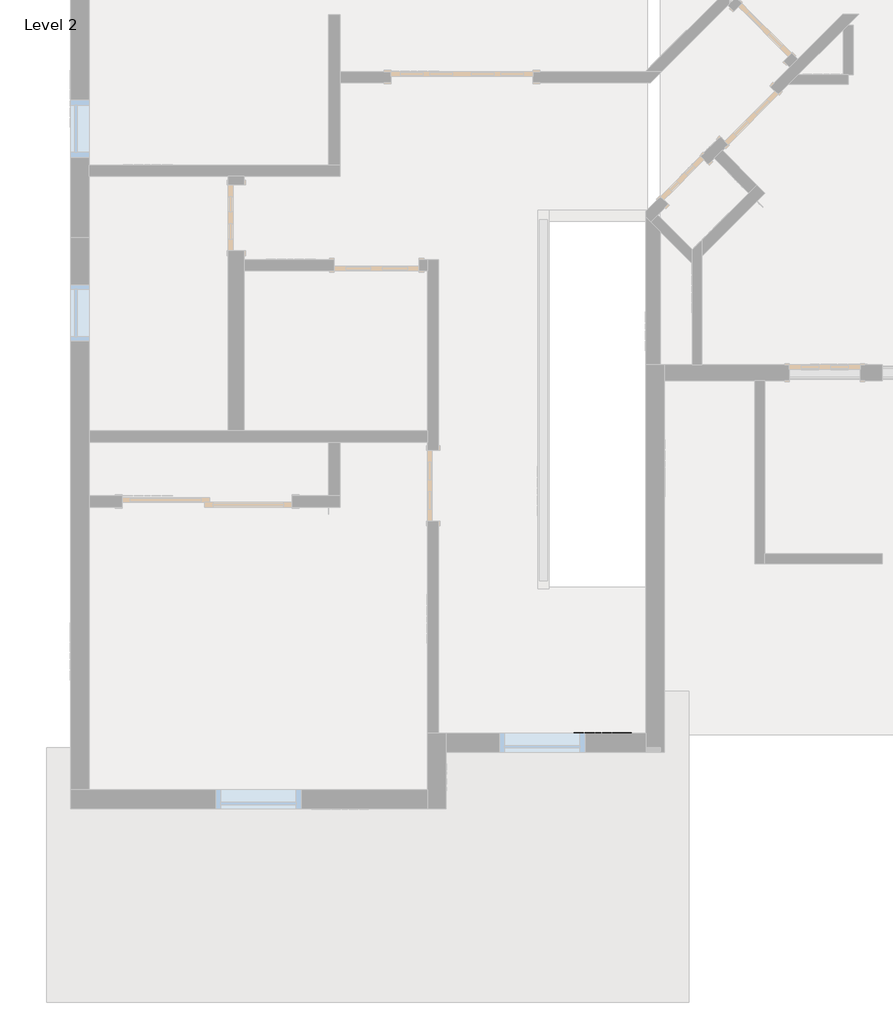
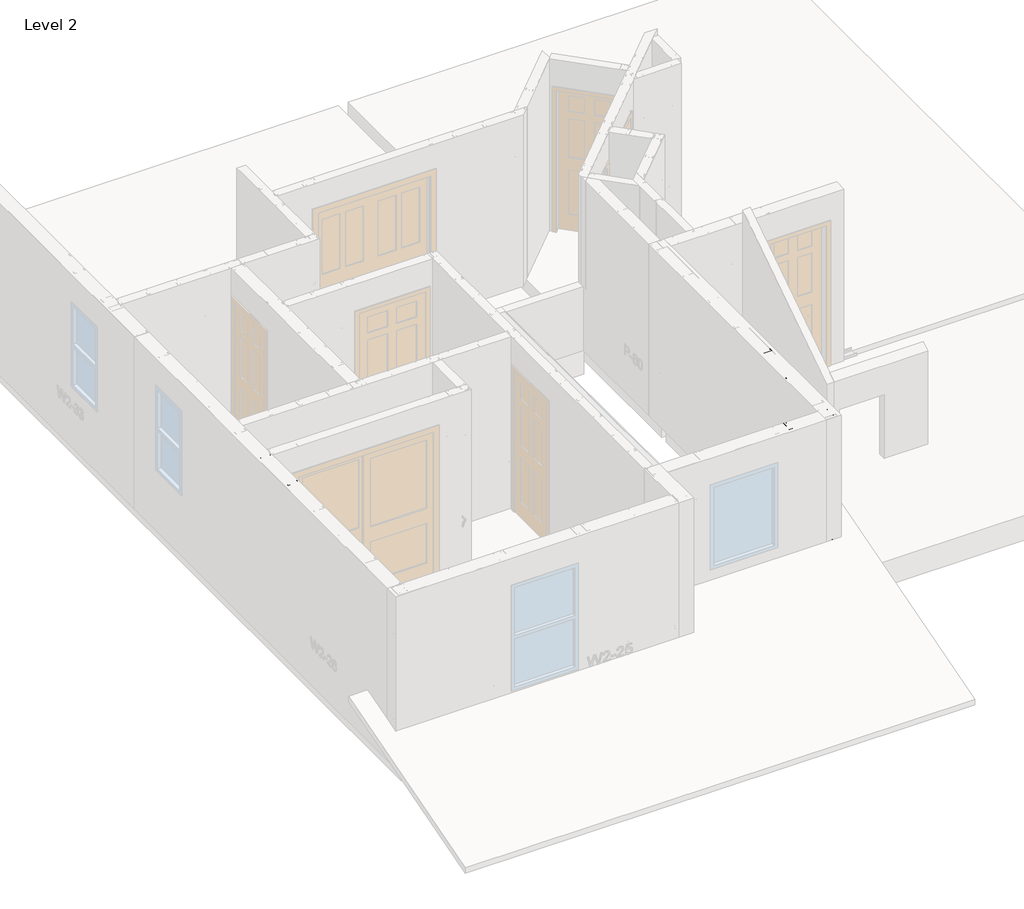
# One storey, part 7 of 46: 6 columns, 1 beam, 1 fastener.
"""IFC4 building model written with IfcOpenShell, lengths in millimetres."""

from ifc_helpers import new_model, si_unit, point, frame, origin, place, context, project, spatial, circle_curve, ellipse_curve, trimmed, transform, mapped, element, save
from ifc_brep_helpers import plane_surface, extruded_surface, advanced_brep
from components import beam_550nf150_43_4f54639b, panellabel_1b34edc0

model = new_model("IFC4")

# Units and contexts
model_context = context("Model", 3, world=origin())
ifc_project = project(units=[si_unit("LENGTHUNIT", "METRE", prefix="MILLI")], contexts=[model_context])

# Site, building, storey
site = spatial("IfcSite", under=ifc_project)
building = spatial("IfcBuilding", under=site)
storey = spatial("IfcBuildingStorey", under=building, Name="Level 2", Elevation=3060.7)

# Beam
placement = place(None, origin())
beam_550nf150_43_shape = beam_550nf150_43_4f54639b(model_context)
element("IfcBeam", 1, ObjectType="BIMSF-SSMA-S : 550NF150-43", at=placement, inside=storey, context=model_context, shape_type="MappedRepresentation", body=[
    mapped(beam_550nf150_43_shape, transform((-15194.0913349, 4957.6168742, 3076.575), x_axis=(0.0, 1.0000000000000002, 0.0), y_axis=(0.0, 0.0, -1.0000000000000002), z_axis=(-1.0000000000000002, 0.0, 0.0))),
])

# Columns
element("IfcColumn", 2, ObjectType="BIMSF-SSMA-S-Column : 550NF150-43", at=placement, inside=storey, context=model_context, shape_type="AdvancedBrep", body=[
    advanced_brep(
    [(-15124.2413349, 4372.102221, 3061.5929687), (-15263.9413349, 4372.102221, 3061.5929687), (-15263.9413349, 4410.202221, 3061.5929687), (-15258.0164507, 4410.202221, 3061.5929687), (-15258.0164507, 4409.0525367, 3061.5929687), (-15262.7916507, 4409.0525367, 3061.5929687), (-15262.7916507, 4373.2519052, 3061.5929687), (-15125.3910191, 4373.2519052, 3061.5929687), (-15125.3910191, 4409.0525367, 3061.5929687), (-15130.1662191, 4409.0525367, 3061.5929687), (-15130.1662191, 4410.202221, 3061.5929687), (-15124.2413349, 4410.202221, 3061.5929687), (-15124.2413349, 4372.102221, 5523.6070313), (-15263.9413349, 4372.102221, 5523.6070313), (-15206.7913349, 4372.102221, 3671.1929687), (-15181.3913349, 4372.102221, 3671.1929687), (-15206.7913349, 4372.102221, 4890.3929687), (-15181.3913349, 4372.102221, 4890.3929687), (-15263.9413349, 4410.202221, 5523.6070313), (-15258.0164507, 4410.202221, 5523.6070313), (-15258.0164507, 4409.0525367, 5523.6070313), (-15262.7916507, 4409.0525367, 5523.6070313), (-15262.7916507, 4373.2519052, 5523.6070313), (-15125.3910191, 4373.2519052, 5523.6070313), (-15181.3913349, 4373.2519052, 3671.1929688), (-15206.7913349, 4373.2519052, 3671.1929688), (-15181.3913349, 4373.2519052, 4890.3929687), (-15206.7913349, 4373.2519052, 4890.3929687), (-15125.3910191, 4409.0525367, 5523.6070313), (-15130.1662191, 4409.0525367, 5523.6070313), (-15130.1662191, 4410.202221, 5523.6070313), (-15124.2413349, 4410.202221, 5523.6070313)],
    [
        (0, 1),
        (1, 2),
        (2, 3),
        (3, 4),
        (4, 5),
        (5, 6),
        (6, 7),
        (7, 8),
        (8, 9),
        (9, 10),
        (10, 11),
        (11, 0),
        (0, 12),
        (12, 13),
        (13, 1),
        (14, 15, circle_curve(frame((-15194.0913349, 4372.102221, 3671.1929688), z_axis=(0.0, 1.0, 0.0), x_axis=(-1.0, 0.0, 0.0)), 12.7)),
        (15, 14, circle_curve(frame((-15194.0913349, 4372.102221, 3671.1929688), z_axis=(0.0, 1.0, 0.0), x_axis=(-1.0, 0.0, 0.0)), 12.7)),
        (16, 17, circle_curve(frame((-15194.0913349, 4372.102221, 4890.3929687), z_axis=(0.0, 1.0, 0.0), x_axis=(-1.0, 0.0, 0.0)), 12.7)),
        (17, 16, circle_curve(frame((-15194.0913349, 4372.102221, 4890.3929687), z_axis=(0.0, 1.0, 0.0), x_axis=(-1.0, 0.0, 0.0)), 12.7)),
        (13, 18),
        (18, 2),
        (18, 19),
        (19, 3),
        (19, 20),
        (20, 4),
        (20, 21),
        (21, 5),
        (21, 22),
        (22, 6),
        (22, 23),
        (23, 7),
        (24, 25, circle_curve(frame((-15194.0913349, 4373.2519052, 3671.1929688), z_axis=(0.0, -1.0, 0.0), x_axis=(-1.0, 0.0, 0.0)), 12.7)),
        (25, 24, circle_curve(frame((-15194.0913349, 4373.2519052, 3671.1929688), z_axis=(0.0, -1.0, 0.0), x_axis=(-1.0, 0.0, 0.0)), 12.7)),
        (26, 27, circle_curve(frame((-15194.0913349, 4373.2519052, 4890.3929687), z_axis=(0.0, -1.0, 0.0), x_axis=(-1.0, 0.0, 0.0)), 12.7)),
        (27, 26, circle_curve(frame((-15194.0913349, 4373.2519052, 4890.3929687), z_axis=(0.0, -1.0, 0.0), x_axis=(-1.0, 0.0, 0.0)), 12.7)),
        (23, 28),
        (28, 8),
        (28, 29),
        (29, 9),
        (29, 30),
        (30, 10),
        (30, 31),
        (31, 11),
        (31, 12),
        (24, 15),
        (14, 25),
        (26, 17),
        (16, 27),
    ],
    [
        plane_surface(frame((-15124.2413349, 4372.102221, 3061.5929687), z_axis=(0.0, 0.0, -1.0), x_axis=(0.0, -1.0, 0.0))),
        plane_surface(frame((-15263.9413349, 4372.102221, 5523.6070313), z_axis=(0.0, -1.0, 0.0), x_axis=(0.0, 0.0, -1.0))),
        plane_surface(frame((-15263.9413349, 4410.202221, 5523.6070313), z_axis=(-1.0, 0.0, 0.0), x_axis=(0.0, 0.0, -1.0))),
        plane_surface(frame((-15258.0164507, 4410.202221, 5523.6070313), z_axis=(0.0, 1.0, 0.0), x_axis=(0.0, 0.0, -1.0))),
        plane_surface(frame((-15258.0164507, 4409.0525367, 5523.6070313), z_axis=(1.0, 0.0, 0.0), x_axis=(0.0, 0.0, -1.0))),
        plane_surface(frame((-15262.7916507, 4409.0525367, 5523.6070313), z_axis=(0.0, -1.0, 0.0), x_axis=(0.0, 0.0, -1.0))),
        plane_surface(frame((-15262.7916507, 4373.2519052, 5523.6070313), z_axis=(1.0, 0.0, 0.0), x_axis=(0.0, 0.0, -1.0))),
        plane_surface(frame((-15125.3910191, 4373.2519052, 5523.6070313), z_axis=(0.0, 1.0, 0.0), x_axis=(0.0, 0.0, -1.0))),
        plane_surface(frame((-15125.3910191, 4409.0525367, 5523.6070313), z_axis=(-1.0, 0.0, 0.0), x_axis=(0.0, 0.0, -1.0))),
        plane_surface(frame((-15130.1662191, 4409.0525367, 5523.6070313), z_axis=(0.0, -1.0, 0.0), x_axis=(0.0, 0.0, -1.0))),
        plane_surface(frame((-15130.1662191, 4410.202221, 5523.6070313), z_axis=(-1.0, 0.0, 0.0), x_axis=(0.0, 0.0, -1.0))),
        plane_surface(frame((-15124.2413349, 4410.202221, 5523.6070313), z_axis=(0.0, 1.0, 0.0), x_axis=(0.0, 0.0, -1.0))),
        plane_surface(frame((-15124.2413349, 4372.102221, 5523.6070313), z_axis=(1.0, 0.0, 0.0), x_axis=(0.0, 0.0, -1.0))),
        plane_surface(frame((-15124.2413349, 4372.102221, 5523.6070313), z_axis=(0.0, 0.0, 1.0), x_axis=(0.0, 1.0, 0.0))),
        extruded_surface(trimmed(ellipse_curve(frame((-15194.0913349, 6853.1662835, 3671.1929688), z_axis=(0.0, -1.0, 0.0), x_axis=(-1.0, 0.0, 0.0)), 12.7, 12.7), [point((-15181.3913349, 6853.1662835, 3671.1929688))], [point((-15206.7913349, 6853.1662835, 3671.1929688))], True, "CARTESIAN"), (0.0, 4924.028125, 0.0), 4924.028125),
        extruded_surface(trimmed(ellipse_curve(frame((-15194.0913349, 6853.1662835, 3671.1929688), z_axis=(0.0, -1.0, 0.0), x_axis=(-1.0, 0.0, 0.0)), 12.7, 12.7), [point((-15206.7913349, 6853.1662835, 3671.1929688))], [point((-15181.3913349, 6853.1662835, 3671.1929688))], True, "CARTESIAN"), (0.0, 4924.028125, 0.0), 4924.028125),
        extruded_surface(trimmed(ellipse_curve(frame((-15194.0913349, 6853.1662835, 4890.3929687), z_axis=(0.0, -1.0, 0.0), x_axis=(-1.0, 0.0, 0.0)), 12.7, 12.7), [point((-15181.3913349, 6853.1662835, 4890.3929687))], [point((-15206.7913349, 6853.1662835, 4890.3929687))], True, "CARTESIAN"), (0.0, 4924.028125, 0.0), 4924.028125),
        extruded_surface(trimmed(ellipse_curve(frame((-15194.0913349, 6853.1662835, 4890.3929687), z_axis=(0.0, -1.0, 0.0), x_axis=(-1.0, 0.0, 0.0)), 12.7, 12.7), [point((-15206.7913349, 6853.1662835, 4890.3929687))], [point((-15181.3913349, 6853.1662835, 4890.3929687))], True, "CARTESIAN"), (0.0, 4924.028125, 0.0), 4924.028125),
    ],
    [
        (0, [[1, 2, 3, 4, 5, 6, 7, 8, 9, 10, 11, 12]]),
        (1, [[-1, 13, 14, 15], [16, 17], [18, 19]]),
        (2, [[-2, -15, 20, 21]]),
        (3, [[-3, -21, 22, 23]]),
        (4, [[-4, -23, 24, 25]]),
        (5, [[-5, -25, 26, 27]]),
        (6, [[-6, -27, 28, 29]]),
        (7, [[-7, -29, 30, 31], [32, 33], [34, 35]]),
        (8, [[-8, -31, 36, 37]]),
        (9, [[-9, -37, 38, 39]]),
        (10, [[-10, -39, 40, 41]]),
        (11, [[-11, -41, 42, 43]]),
        (12, [[-12, -43, 44, -13]]),
        (13, [[-14, -44, -42, -40, -38, -36, -30, -28, -26, -24, -22, -20]]),
        (14, [[45, -16, 46, -32]]),
        (15, [[-45, -33, -46, -17]]),
        (16, [[47, -18, 48, -34]]),
        (17, [[-47, -35, -48, -19]]),
    ],
),
])
element("IfcColumn", 3, ObjectType="BIMSF-SSMA-S-Column : 550NF150-43", at=placement, inside=storey, context=model_context, shape_type="AdvancedBrep", body=[
    advanced_brep(
    [(-15124.2413349, 4981.702221, 3061.5929687), (-15263.9413349, 4981.702221, 3061.5929687), (-15263.9413349, 5019.802221, 3061.5929687), (-15258.0164507, 5019.802221, 3061.5929687), (-15258.0164507, 5018.6525367, 3061.5929687), (-15262.7916507, 5018.6525367, 3061.5929687), (-15262.7916507, 4982.8519052, 3061.5929687), (-15125.3910191, 4982.8519052, 3061.5929687), (-15125.3910191, 5018.6525367, 3061.5929687), (-15130.1662191, 5018.6525367, 3061.5929687), (-15130.1662191, 5019.802221, 3061.5929687), (-15124.2413349, 5019.802221, 3061.5929687), (-15124.2413349, 4981.702221, 5523.6070313), (-15263.9413349, 4981.702221, 5523.6070313), (-15206.7913349, 4981.702221, 3671.1929687), (-15181.3913349, 4981.702221, 3671.1929687), (-15206.7913349, 4981.702221, 4890.3929687), (-15181.3913349, 4981.702221, 4890.3929687), (-15263.9413349, 5019.802221, 5523.6070313), (-15258.0164507, 5019.802221, 5523.6070313), (-15258.0164507, 5018.6525367, 5523.6070313), (-15262.7916507, 5018.6525367, 5523.6070313), (-15262.7916507, 4982.8519052, 5523.6070313), (-15125.3910191, 4982.8519052, 5523.6070313), (-15181.3913349, 4982.8519052, 3671.1929688), (-15206.7913349, 4982.8519052, 3671.1929688), (-15181.3913349, 4982.8519052, 4890.3929687), (-15206.7913349, 4982.8519052, 4890.3929687), (-15125.3910191, 5018.6525367, 5523.6070313), (-15130.1662191, 5018.6525367, 5523.6070313), (-15130.1662191, 5019.802221, 5523.6070313), (-15124.2413349, 5019.802221, 5523.6070313)],
    [
        (0, 1),
        (1, 2),
        (2, 3),
        (3, 4),
        (4, 5),
        (5, 6),
        (6, 7),
        (7, 8),
        (8, 9),
        (9, 10),
        (10, 11),
        (11, 0),
        (0, 12),
        (12, 13),
        (13, 1),
        (14, 15, circle_curve(frame((-15194.0913349, 4981.702221, 3671.1929687), z_axis=(0.0, 1.0, 0.0), x_axis=(-1.0, 0.0, 0.0)), 12.7)),
        (15, 14, circle_curve(frame((-15194.0913349, 4981.702221, 3671.1929688), z_axis=(0.0, 1.0, 0.0), x_axis=(-1.0, 0.0, 0.0)), 12.7)),
        (16, 17, circle_curve(frame((-15194.0913349, 4981.702221, 4890.3929687), z_axis=(0.0, 1.0, 0.0), x_axis=(-1.0, 0.0, 0.0)), 12.7)),
        (17, 16, circle_curve(frame((-15194.0913349, 4981.702221, 4890.3929687), z_axis=(0.0, 1.0, 0.0), x_axis=(-1.0, 0.0, 0.0)), 12.7)),
        (13, 18),
        (18, 2),
        (18, 19),
        (19, 3),
        (19, 20),
        (20, 4),
        (20, 21),
        (21, 5),
        (21, 22),
        (22, 6),
        (22, 23),
        (23, 7),
        (24, 25, circle_curve(frame((-15194.0913349, 4982.8519052, 3671.1929688), z_axis=(0.0, -1.0, 0.0), x_axis=(-1.0, 0.0, 0.0)), 12.7)),
        (25, 24, circle_curve(frame((-15194.0913349, 4982.8519052, 3671.1929688), z_axis=(0.0, -1.0, 0.0), x_axis=(-1.0, 0.0, 0.0)), 12.7)),
        (26, 27, circle_curve(frame((-15194.0913349, 4982.8519052, 4890.3929687), z_axis=(0.0, -1.0, 0.0), x_axis=(-1.0, 0.0, 0.0)), 12.7)),
        (27, 26, circle_curve(frame((-15194.0913349, 4982.8519052, 4890.3929687), z_axis=(0.0, -1.0, 0.0), x_axis=(-1.0, 0.0, 0.0)), 12.7)),
        (23, 28),
        (28, 8),
        (28, 29),
        (29, 9),
        (29, 30),
        (30, 10),
        (30, 31),
        (31, 11),
        (31, 12),
        (24, 15),
        (14, 25),
        (26, 17),
        (16, 27),
    ],
    [
        plane_surface(frame((-15124.2413349, 4981.702221, 3061.5929687), z_axis=(0.0, 0.0, -1.0), x_axis=(0.0, -1.0, 0.0))),
        plane_surface(frame((-15263.9413349, 4981.702221, 5523.6070313), z_axis=(0.0, -1.0, 0.0), x_axis=(0.0, 0.0, -1.0))),
        plane_surface(frame((-15263.9413349, 5019.802221, 5523.6070313), z_axis=(-1.0, 0.0, 0.0), x_axis=(0.0, 0.0, -1.0))),
        plane_surface(frame((-15258.0164507, 5019.802221, 5523.6070313), z_axis=(0.0, 1.0, 0.0), x_axis=(0.0, 0.0, -1.0))),
        plane_surface(frame((-15258.0164507, 5018.6525367, 5523.6070313), z_axis=(1.0, 0.0, 0.0), x_axis=(0.0, 0.0, -1.0))),
        plane_surface(frame((-15262.7916507, 5018.6525367, 5523.6070313), z_axis=(0.0, -1.0, 0.0), x_axis=(0.0, 0.0, -1.0))),
        plane_surface(frame((-15262.7916507, 4982.8519052, 5523.6070313), z_axis=(1.0, 0.0, 0.0), x_axis=(0.0, 0.0, -1.0))),
        plane_surface(frame((-15125.3910191, 4982.8519052, 5523.6070313), z_axis=(0.0, 1.0, 0.0), x_axis=(0.0, 0.0, -1.0))),
        plane_surface(frame((-15125.3910191, 5018.6525367, 5523.6070313), z_axis=(-1.0, 0.0, 0.0), x_axis=(0.0, 0.0, -1.0))),
        plane_surface(frame((-15130.1662191, 5018.6525367, 5523.6070313), z_axis=(0.0, -1.0, 0.0), x_axis=(0.0, 0.0, -1.0))),
        plane_surface(frame((-15130.1662191, 5019.802221, 5523.6070313), z_axis=(-1.0, 0.0, 0.0), x_axis=(0.0, 0.0, -1.0))),
        plane_surface(frame((-15124.2413349, 5019.802221, 5523.6070313), z_axis=(0.0, 1.0, 0.0), x_axis=(0.0, 0.0, -1.0))),
        plane_surface(frame((-15124.2413349, 4981.702221, 5523.6070313), z_axis=(1.0, 0.0, 0.0), x_axis=(0.0, 0.0, -1.0))),
        plane_surface(frame((-15124.2413349, 4981.702221, 5523.6070313), z_axis=(0.0, 0.0, 1.0), x_axis=(0.0, 1.0, 0.0))),
        extruded_surface(trimmed(ellipse_curve(frame((-15194.0913349, 7462.7662835, 3671.1929688), z_axis=(0.0, -1.0, 0.0), x_axis=(-1.0, 0.0, 0.0)), 12.7, 12.7), [point((-15181.3913349, 7462.7662835, 3671.1929688))], [point((-15206.7913349, 7462.7662835, 3671.1929688))], True, "CARTESIAN"), (0.0, 4924.028125, 0.0), 4924.028125),
        extruded_surface(trimmed(ellipse_curve(frame((-15194.0913349, 7462.7662835, 3671.1929688), z_axis=(0.0, -1.0, 0.0), x_axis=(-1.0, 0.0, 0.0)), 12.7, 12.7), [point((-15206.7913349, 7462.7662835, 3671.1929688))], [point((-15181.3913349, 7462.7662835, 3671.1929688))], True, "CARTESIAN"), (0.0, 4924.028125, 0.0), 4924.028125),
        extruded_surface(trimmed(ellipse_curve(frame((-15194.0913349, 7462.7662835, 4890.3929687), z_axis=(0.0, -1.0, 0.0), x_axis=(-1.0, 0.0, 0.0)), 12.7, 12.7), [point((-15181.3913349, 7462.7662835, 4890.3929687))], [point((-15206.7913349, 7462.7662835, 4890.3929687))], True, "CARTESIAN"), (0.0, 4924.028125, 0.0), 4924.028125),
        extruded_surface(trimmed(ellipse_curve(frame((-15194.0913349, 7462.7662835, 4890.3929687), z_axis=(0.0, -1.0, 0.0), x_axis=(-1.0, 0.0, 0.0)), 12.7, 12.7), [point((-15206.7913349, 7462.7662835, 4890.3929687))], [point((-15181.3913349, 7462.7662835, 4890.3929687))], True, "CARTESIAN"), (0.0, 4924.028125, 0.0), 4924.028125),
    ],
    [
        (0, [[1, 2, 3, 4, 5, 6, 7, 8, 9, 10, 11, 12]]),
        (1, [[-1, 13, 14, 15], [16, 17], [18, 19]]),
        (2, [[-2, -15, 20, 21]]),
        (3, [[-3, -21, 22, 23]]),
        (4, [[-4, -23, 24, 25]]),
        (5, [[-5, -25, 26, 27]]),
        (6, [[-6, -27, 28, 29]]),
        (7, [[-7, -29, 30, 31], [32, 33], [34, 35]]),
        (8, [[-8, -31, 36, 37]]),
        (9, [[-9, -37, 38, 39]]),
        (10, [[-10, -39, 40, 41]]),
        (11, [[-11, -41, 42, 43]]),
        (12, [[-12, -43, 44, -13]]),
        (13, [[-14, -44, -42, -40, -38, -36, -30, -28, -26, -24, -22, -20]]),
        (14, [[45, -16, 46, -32]]),
        (15, [[-45, -33, -46, -17]]),
        (16, [[47, -18, 48, -34]]),
        (17, [[-47, -35, -48, -19]]),
    ],
),
])
element("IfcColumn", 4, ObjectType="BIMSF-SSMA-S-Column : 550NF150-43", at=placement, inside=storey, context=model_context, shape_type="AdvancedBrep", body=[
    advanced_brep(
    [(-8964.7413349, 3927.602221, 3061.5929687), (-9104.4413349, 3927.602221, 3061.5929687), (-9104.4413349, 3965.702221, 3061.5929687), (-9098.5164507, 3965.702221, 3061.5929687), (-9098.5164507, 3964.5525367, 3061.5929687), (-9103.2916507, 3964.5525367, 3061.5929687), (-9103.2916507, 3928.7519052, 3061.5929687), (-8965.8910191, 3928.7519052, 3061.5929687), (-8965.8910191, 3964.5525367, 3061.5929687), (-8970.6662191, 3964.5525367, 3061.5929687), (-8970.6662191, 3965.702221, 3061.5929687), (-8964.7413349, 3965.702221, 3061.5929687), (-8964.7413349, 3927.602221, 5523.6070313), (-9104.4413349, 3927.602221, 5523.6070313), (-9047.2913349, 3927.602221, 3671.1929687), (-9021.8913349, 3927.602221, 3671.1929687), (-9047.2913349, 3927.602221, 4890.3929687), (-9021.8913349, 3927.602221, 4890.3929687), (-9104.4413349, 3965.702221, 5523.6070313), (-9098.5164507, 3965.702221, 5523.6070313), (-9098.5164507, 3964.5525367, 5523.6070313), (-9103.2916507, 3964.5525367, 5523.6070313), (-9103.2916507, 3928.7519052, 5523.6070313), (-8965.8910191, 3928.7519052, 5523.6070313), (-9021.8913349, 3928.7519052, 3671.1929688), (-9047.2913349, 3928.7519052, 3671.1929688), (-9021.8913349, 3928.7519052, 4890.3929687), (-9047.2913349, 3928.7519052, 4890.3929687), (-8965.8910191, 3964.5525367, 5523.6070313), (-8970.6662191, 3964.5525367, 5523.6070313), (-8970.6662191, 3965.702221, 5523.6070313), (-8964.7413349, 3965.702221, 5523.6070313)],
    [
        (0, 1),
        (1, 2),
        (2, 3),
        (3, 4),
        (4, 5),
        (5, 6),
        (6, 7),
        (7, 8),
        (8, 9),
        (9, 10),
        (10, 11),
        (11, 0),
        (0, 12),
        (12, 13),
        (13, 1),
        (14, 15, circle_curve(frame((-9034.5913349, 3927.602221, 3671.1929688), z_axis=(0.0, 1.0, 0.0), x_axis=(-1.0, 0.0, 0.0)), 12.7)),
        (15, 14, circle_curve(frame((-9034.5913349, 3927.602221, 3671.1929688), z_axis=(0.0, 1.0, 0.0), x_axis=(-1.0, 0.0, 0.0)), 12.7)),
        (16, 17, circle_curve(frame((-9034.5913349, 3927.602221, 4890.3929687), z_axis=(0.0, 1.0, 0.0), x_axis=(-1.0, 0.0, 0.0)), 12.7)),
        (17, 16, circle_curve(frame((-9034.5913349, 3927.602221, 4890.3929687), z_axis=(0.0, 1.0, 0.0), x_axis=(-1.0, 0.0, 0.0)), 12.7)),
        (13, 18),
        (18, 2),
        (18, 19),
        (19, 3),
        (19, 20),
        (20, 4),
        (20, 21),
        (21, 5),
        (21, 22),
        (22, 6),
        (22, 23),
        (23, 7),
        (24, 25, circle_curve(frame((-9034.5913349, 3928.7519052, 3671.1929688), z_axis=(0.0, -1.0, 0.0), x_axis=(-1.0, 0.0, 0.0)), 12.7)),
        (25, 24, circle_curve(frame((-9034.5913349, 3928.7519052, 3671.1929688), z_axis=(0.0, -1.0, 0.0), x_axis=(-1.0, 0.0, 0.0)), 12.7)),
        (26, 27, circle_curve(frame((-9034.5913349, 3928.7519052, 4890.3929687), z_axis=(0.0, -1.0, 0.0), x_axis=(-1.0, 0.0, 0.0)), 12.7)),
        (27, 26, circle_curve(frame((-9034.5913349, 3928.7519052, 4890.3929687), z_axis=(0.0, -1.0, 0.0), x_axis=(-1.0, 0.0, 0.0)), 12.7)),
        (23, 28),
        (28, 8),
        (28, 29),
        (29, 9),
        (29, 30),
        (30, 10),
        (30, 31),
        (31, 11),
        (31, 12),
        (24, 15),
        (14, 25),
        (26, 17),
        (16, 27),
    ],
    [
        plane_surface(frame((-8964.7413349, 3927.602221, 3061.5929687), z_axis=(0.0, 0.0, -1.0), x_axis=(0.0, -1.0, 0.0))),
        plane_surface(frame((-9104.4413349, 3927.602221, 5523.6070313), z_axis=(0.0, -1.0, 0.0), x_axis=(0.0, 0.0, -1.0))),
        plane_surface(frame((-9104.4413349, 3965.702221, 5523.6070313), z_axis=(-1.0, 0.0, 0.0), x_axis=(0.0, 0.0, -1.0))),
        plane_surface(frame((-9098.5164507, 3965.702221, 5523.6070313), z_axis=(0.0, 1.0, 0.0), x_axis=(0.0, 0.0, -1.0))),
        plane_surface(frame((-9098.5164507, 3964.5525367, 5523.6070313), z_axis=(1.0, 0.0, 0.0), x_axis=(0.0, 0.0, -1.0))),
        plane_surface(frame((-9103.2916507, 3964.5525367, 5523.6070313), z_axis=(0.0, -1.0, 0.0), x_axis=(0.0, 0.0, -1.0))),
        plane_surface(frame((-9103.2916507, 3928.7519052, 5523.6070313), z_axis=(1.0, 0.0, 0.0), x_axis=(0.0, 0.0, -1.0))),
        plane_surface(frame((-8965.8910191, 3928.7519052, 5523.6070313), z_axis=(0.0, 1.0, 0.0), x_axis=(0.0, 0.0, -1.0))),
        plane_surface(frame((-8965.8910191, 3964.5525367, 5523.6070313), z_axis=(-1.0, 0.0, 0.0), x_axis=(0.0, 0.0, -1.0))),
        plane_surface(frame((-8970.6662191, 3964.5525367, 5523.6070313), z_axis=(0.0, -1.0, 0.0), x_axis=(0.0, 0.0, -1.0))),
        plane_surface(frame((-8970.6662191, 3965.702221, 5523.6070313), z_axis=(-1.0, 0.0, 0.0), x_axis=(0.0, 0.0, -1.0))),
        plane_surface(frame((-8964.7413349, 3965.702221, 5523.6070313), z_axis=(0.0, 1.0, 0.0), x_axis=(0.0, 0.0, -1.0))),
        plane_surface(frame((-8964.7413349, 3927.602221, 5523.6070313), z_axis=(1.0, 0.0, 0.0), x_axis=(0.0, 0.0, -1.0))),
        plane_surface(frame((-8964.7413349, 3927.602221, 5523.6070313), z_axis=(0.0, 0.0, 1.0), x_axis=(0.0, 1.0, 0.0))),
        extruded_surface(trimmed(ellipse_curve(frame((-9034.5913349, 6408.6662835, 3671.1929688), z_axis=(0.0, -1.0, 0.0), x_axis=(-1.0, 0.0, 0.0)), 12.7, 12.7), [point((-9021.8913349, 6408.6662835, 3671.1929688))], [point((-9047.2913349, 6408.6662835, 3671.1929688))], True, "CARTESIAN"), (0.0, 4924.028125, 0.0), 4924.028125),
        extruded_surface(trimmed(ellipse_curve(frame((-9034.5913349, 6408.6662835, 3671.1929688), z_axis=(0.0, -1.0, 0.0), x_axis=(-1.0, 0.0, 0.0)), 12.7, 12.7), [point((-9047.2913349, 6408.6662835, 3671.1929688))], [point((-9021.8913349, 6408.6662835, 3671.1929688))], True, "CARTESIAN"), (0.0, 4924.028125, 0.0), 4924.028125),
        extruded_surface(trimmed(ellipse_curve(frame((-9034.5913349, 6408.6662835, 4890.3929687), z_axis=(0.0, -1.0, 0.0), x_axis=(-1.0, 0.0, 0.0)), 12.7, 12.7), [point((-9021.8913349, 6408.6662835, 4890.3929687))], [point((-9047.2913349, 6408.6662835, 4890.3929687))], True, "CARTESIAN"), (0.0, 4924.028125, 0.0), 4924.028125),
        extruded_surface(trimmed(ellipse_curve(frame((-9034.5913349, 6408.6662835, 4890.3929687), z_axis=(0.0, -1.0, 0.0), x_axis=(-1.0, 0.0, 0.0)), 12.7, 12.7), [point((-9047.2913349, 6408.6662835, 4890.3929687))], [point((-9021.8913349, 6408.6662835, 4890.3929687))], True, "CARTESIAN"), (0.0, 4924.028125, 0.0), 4924.028125),
    ],
    [
        (0, [[1, 2, 3, 4, 5, 6, 7, 8, 9, 10, 11, 12]]),
        (1, [[-1, 13, 14, 15], [16, 17], [18, 19]]),
        (2, [[-2, -15, 20, 21]]),
        (3, [[-3, -21, 22, 23]]),
        (4, [[-4, -23, 24, 25]]),
        (5, [[-5, -25, 26, 27]]),
        (6, [[-6, -27, 28, 29]]),
        (7, [[-7, -29, 30, 31], [32, 33], [34, 35]]),
        (8, [[-8, -31, 36, 37]]),
        (9, [[-9, -37, 38, 39]]),
        (10, [[-10, -39, 40, 41]]),
        (11, [[-11, -41, 42, 43]]),
        (12, [[-12, -43, 44, -13]]),
        (13, [[-14, -44, -42, -40, -38, -36, -30, -28, -26, -24, -22, -20]]),
        (14, [[45, -16, 46, -32]]),
        (15, [[-45, -33, -46, -17]]),
        (16, [[47, -18, 48, -34]]),
        (17, [[-47, -35, -48, -19]]),
    ],
),
])
element("IfcColumn", 5, ObjectType="BIMSF-SSMA-S-Column : 550NF150-43", at=placement, inside=storey, context=model_context, shape_type="AdvancedBrep", body=[
    advanced_brep(
    [(-8964.7413349, 3318.002221, 3061.5929687), (-9104.4413349, 3318.002221, 3061.5929687), (-9104.4413349, 3356.102221, 3061.5929687), (-9098.5164507, 3356.102221, 3061.5929687), (-9098.5164507, 3354.9525367, 3061.5929687), (-9103.2916507, 3354.9525367, 3061.5929687), (-9103.2916507, 3319.1519052, 3061.5929687), (-8965.8910191, 3319.1519052, 3061.5929687), (-8965.8910191, 3354.9525367, 3061.5929687), (-8970.6662191, 3354.9525367, 3061.5929687), (-8970.6662191, 3356.102221, 3061.5929687), (-8964.7413349, 3356.102221, 3061.5929687), (-8964.7413349, 3318.002221, 5523.6070313), (-9104.4413349, 3318.002221, 5523.6070313), (-9047.2913349, 3318.002221, 3671.1929687), (-9021.8913349, 3318.002221, 3671.1929687), (-9047.2913349, 3318.002221, 4890.3929687), (-9021.8913349, 3318.002221, 4890.3929687), (-9104.4413349, 3356.102221, 5523.6070313), (-9098.5164507, 3356.102221, 5523.6070313), (-9098.5164507, 3354.9525367, 5523.6070313), (-9103.2916507, 3354.9525367, 5523.6070313), (-9103.2916507, 3319.1519052, 5523.6070313), (-8965.8910191, 3319.1519052, 5523.6070313), (-9021.8913349, 3319.1519052, 3671.1929688), (-9047.2913349, 3319.1519052, 3671.1929688), (-9021.8913349, 3319.1519052, 4890.3929687), (-9047.2913349, 3319.1519052, 4890.3929687), (-8965.8910191, 3354.9525367, 5523.6070313), (-8970.6662191, 3354.9525367, 5523.6070313), (-8970.6662191, 3356.102221, 5523.6070313), (-8964.7413349, 3356.102221, 5523.6070313)],
    [
        (0, 1),
        (1, 2),
        (2, 3),
        (3, 4),
        (4, 5),
        (5, 6),
        (6, 7),
        (7, 8),
        (8, 9),
        (9, 10),
        (10, 11),
        (11, 0),
        (0, 12),
        (12, 13),
        (13, 1),
        (14, 15, circle_curve(frame((-9034.5913349, 3318.002221, 3671.1929688), z_axis=(0.0, 1.0, 0.0), x_axis=(-1.0, 0.0, 0.0)), 12.7)),
        (15, 14, circle_curve(frame((-9034.5913349, 3318.002221, 3671.1929688), z_axis=(0.0, 1.0, 0.0), x_axis=(-1.0, 0.0, 0.0)), 12.7)),
        (16, 17, circle_curve(frame((-9034.5913349, 3318.002221, 4890.3929687), z_axis=(0.0, 1.0, 0.0), x_axis=(-1.0, 0.0, 0.0)), 12.7)),
        (17, 16, circle_curve(frame((-9034.5913349, 3318.002221, 4890.3929687), z_axis=(0.0, 1.0, 0.0), x_axis=(-1.0, 0.0, 0.0)), 12.7)),
        (13, 18),
        (18, 2),
        (18, 19),
        (19, 3),
        (19, 20),
        (20, 4),
        (20, 21),
        (21, 5),
        (21, 22),
        (22, 6),
        (22, 23),
        (23, 7),
        (24, 25, circle_curve(frame((-9034.5913349, 3319.1519052, 3671.1929688), z_axis=(0.0, -1.0, 0.0), x_axis=(-1.0, 0.0, 0.0)), 12.7)),
        (25, 24, circle_curve(frame((-9034.5913349, 3319.1519052, 3671.1929688), z_axis=(0.0, -1.0, 0.0), x_axis=(-1.0, 0.0, 0.0)), 12.7)),
        (26, 27, circle_curve(frame((-9034.5913349, 3319.1519052, 4890.3929687), z_axis=(0.0, -1.0, 0.0), x_axis=(-1.0, 0.0, 0.0)), 12.7)),
        (27, 26, circle_curve(frame((-9034.5913349, 3319.1519052, 4890.3929687), z_axis=(0.0, -1.0, 0.0), x_axis=(-1.0, 0.0, 0.0)), 12.7)),
        (23, 28),
        (28, 8),
        (28, 29),
        (29, 9),
        (29, 30),
        (30, 10),
        (30, 31),
        (31, 11),
        (31, 12),
        (24, 15),
        (14, 25),
        (26, 17),
        (16, 27),
    ],
    [
        plane_surface(frame((-8964.7413349, 3318.002221, 3061.5929687), z_axis=(0.0, 0.0, -1.0), x_axis=(0.0, -1.0, 0.0))),
        plane_surface(frame((-9104.4413349, 3318.002221, 5523.6070313), z_axis=(0.0, -1.0, 0.0), x_axis=(0.0, 0.0, -1.0))),
        plane_surface(frame((-9104.4413349, 3356.102221, 5523.6070313), z_axis=(-1.0, 0.0, 0.0), x_axis=(0.0, 0.0, -1.0))),
        plane_surface(frame((-9098.5164507, 3356.102221, 5523.6070313), z_axis=(0.0, 1.0, 0.0), x_axis=(0.0, 0.0, -1.0))),
        plane_surface(frame((-9098.5164507, 3354.9525367, 5523.6070313), z_axis=(1.0, 0.0, 0.0), x_axis=(0.0, 0.0, -1.0))),
        plane_surface(frame((-9103.2916507, 3354.9525367, 5523.6070313), z_axis=(0.0, -1.0, 0.0), x_axis=(0.0, 0.0, -1.0))),
        plane_surface(frame((-9103.2916507, 3319.1519052, 5523.6070313), z_axis=(1.0, 0.0, 0.0), x_axis=(0.0, 0.0, -1.0))),
        plane_surface(frame((-8965.8910191, 3319.1519052, 5523.6070313), z_axis=(0.0, 1.0, 0.0), x_axis=(0.0, 0.0, -1.0))),
        plane_surface(frame((-8965.8910191, 3354.9525367, 5523.6070313), z_axis=(-1.0, 0.0, 0.0), x_axis=(0.0, 0.0, -1.0))),
        plane_surface(frame((-8970.6662191, 3354.9525367, 5523.6070313), z_axis=(0.0, -1.0, 0.0), x_axis=(0.0, 0.0, -1.0))),
        plane_surface(frame((-8970.6662191, 3356.102221, 5523.6070313), z_axis=(-1.0, 0.0, 0.0), x_axis=(0.0, 0.0, -1.0))),
        plane_surface(frame((-8964.7413349, 3356.102221, 5523.6070313), z_axis=(0.0, 1.0, 0.0), x_axis=(0.0, 0.0, -1.0))),
        plane_surface(frame((-8964.7413349, 3318.002221, 5523.6070313), z_axis=(1.0, 0.0, 0.0), x_axis=(0.0, 0.0, -1.0))),
        plane_surface(frame((-8964.7413349, 3318.002221, 5523.6070313), z_axis=(0.0, 0.0, 1.0), x_axis=(0.0, 1.0, 0.0))),
        extruded_surface(trimmed(ellipse_curve(frame((-9034.5913349, 5799.0662835, 3671.1929688), z_axis=(0.0, -1.0, 0.0), x_axis=(-1.0, 0.0, 0.0)), 12.7, 12.7), [point((-9021.8913349, 5799.0662835, 3671.1929688))], [point((-9047.2913349, 5799.0662835, 3671.1929688))], True, "CARTESIAN"), (0.0, 4924.028124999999, 0.0), 4924.028124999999),
        extruded_surface(trimmed(ellipse_curve(frame((-9034.5913349, 5799.0662835, 3671.1929688), z_axis=(0.0, -1.0, 0.0), x_axis=(-1.0, 0.0, 0.0)), 12.7, 12.7), [point((-9047.2913349, 5799.0662835, 3671.1929688))], [point((-9021.8913349, 5799.0662835, 3671.1929688))], True, "CARTESIAN"), (0.0, 4924.028124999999, 0.0), 4924.028124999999),
        extruded_surface(trimmed(ellipse_curve(frame((-9034.5913349, 5799.0662835, 4890.3929687), z_axis=(0.0, -1.0, 0.0), x_axis=(-1.0, 0.0, 0.0)), 12.7, 12.7), [point((-9021.8913349, 5799.0662835, 4890.3929687))], [point((-9047.2913349, 5799.0662835, 4890.3929687))], True, "CARTESIAN"), (0.0, 4924.028124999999, 0.0), 4924.028124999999),
        extruded_surface(trimmed(ellipse_curve(frame((-9034.5913349, 5799.0662835, 4890.3929687), z_axis=(0.0, -1.0, 0.0), x_axis=(-1.0, 0.0, 0.0)), 12.7, 12.7), [point((-9047.2913349, 5799.0662835, 4890.3929687))], [point((-9021.8913349, 5799.0662835, 4890.3929687))], True, "CARTESIAN"), (0.0, 4924.028124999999, 0.0), 4924.028124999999),
    ],
    [
        (0, [[1, 2, 3, 4, 5, 6, 7, 8, 9, 10, 11, 12]]),
        (1, [[-1, 13, 14, 15], [16, 17], [18, 19]]),
        (2, [[-2, -15, 20, 21]]),
        (3, [[-3, -21, 22, 23]]),
        (4, [[-4, -23, 24, 25]]),
        (5, [[-5, -25, 26, 27]]),
        (6, [[-6, -27, 28, 29]]),
        (7, [[-7, -29, 30, 31], [32, 33], [34, 35]]),
        (8, [[-8, -31, 36, 37]]),
        (9, [[-9, -37, 38, 39]]),
        (10, [[-10, -39, 40, 41]]),
        (11, [[-11, -41, 42, 43]]),
        (12, [[-12, -43, 44, -13]]),
        (13, [[-14, -44, -42, -40, -38, -36, -30, -28, -26, -24, -22, -20]]),
        (14, [[45, -16, 46, -32]]),
        (15, [[-45, -33, -46, -17]]),
        (16, [[47, -18, 48, -34]]),
        (17, [[-47, -35, -48, -19]]),
    ],
),
])
element("IfcColumn", 6, ObjectType="BIMSF-SSMA-S-Column : 550NF150-43", at=placement, inside=storey, context=model_context, shape_type="AdvancedBrep", body=[
    advanced_brep(
    [(-8964.7413349, 2562.352221, 3061.5929687), (-8964.7413349, 2422.652221, 3061.5929687), (-9002.8413349, 2422.652221, 3061.5929687), (-9002.8413349, 2428.5771052, 3061.5929687), (-9001.6916507, 2428.5771052, 3061.5929687), (-9001.6916507, 2423.8019052, 3061.5929687), (-8965.8910191, 2423.8019052, 3061.5929687), (-8965.8910191, 2561.2025367, 3061.5929687), (-9001.6916507, 2561.2025367, 3061.5929687), (-9001.6916507, 2556.4273367, 3061.5929687), (-9002.8413349, 2556.4273367, 3061.5929687), (-9002.8413349, 2562.352221, 3061.5929687), (-8964.7413349, 2562.352221, 5523.6070313), (-8964.7413349, 2422.652221, 5523.6070313), (-8964.7413349, 2479.802221, 3671.1929687), (-8964.7413349, 2505.202221, 3671.1929687), (-8964.7413349, 2479.802221, 4890.3929687), (-8964.7413349, 2505.202221, 4890.3929687), (-9002.8413349, 2422.652221, 5523.6070313), (-9002.8413349, 2428.5771052, 5523.6070313), (-9001.6916507, 2428.5771052, 5523.6070313), (-9001.6916507, 2423.8019052, 5523.6070313), (-8965.8910191, 2423.8019052, 5523.6070313), (-8965.8910191, 2561.2025367, 5523.6070313), (-8965.8910191, 2505.202221, 3671.1929688), (-8965.8910191, 2479.802221, 3671.1929688), (-8965.8910191, 2505.202221, 4890.3929687), (-8965.8910191, 2479.802221, 4890.3929687), (-9001.6916507, 2561.2025367, 5523.6070313), (-9001.6916507, 2556.4273367, 5523.6070313), (-9002.8413349, 2556.4273367, 5523.6070313), (-9002.8413349, 2562.352221, 5523.6070313)],
    [
        (0, 1),
        (1, 2),
        (2, 3),
        (3, 4),
        (4, 5),
        (5, 6),
        (6, 7),
        (7, 8),
        (8, 9),
        (9, 10),
        (10, 11),
        (11, 0),
        (0, 12),
        (12, 13),
        (13, 1),
        (14, 15, circle_curve(frame((-8964.7413349, 2492.502221, 3671.1929688), z_axis=(-1.0, 0.0, 0.0), x_axis=(0.0, -1.0, 0.0)), 12.7)),
        (15, 14, circle_curve(frame((-8964.7413349, 2492.502221, 3671.1929688), z_axis=(-1.0, 0.0, 0.0), x_axis=(0.0, -1.0, 0.0)), 12.7)),
        (16, 17, circle_curve(frame((-8964.7413349, 2492.502221, 4890.3929687), z_axis=(-1.0, 0.0, 0.0), x_axis=(0.0, -1.0, 0.0)), 12.7)),
        (17, 16, circle_curve(frame((-8964.7413349, 2492.502221, 4890.3929687), z_axis=(-1.0, 0.0, 0.0), x_axis=(0.0, -1.0, 0.0)), 12.7)),
        (13, 18),
        (18, 2),
        (18, 19),
        (19, 3),
        (19, 20),
        (20, 4),
        (20, 21),
        (21, 5),
        (21, 22),
        (22, 6),
        (22, 23),
        (23, 7),
        (24, 25, circle_curve(frame((-8965.8910191, 2492.502221, 3671.1929688), z_axis=(1.0, 0.0, 0.0), x_axis=(0.0, -1.0, 0.0)), 12.7)),
        (25, 24, circle_curve(frame((-8965.8910191, 2492.502221, 3671.1929688), z_axis=(1.0, 0.0, 0.0), x_axis=(0.0, -1.0, 0.0)), 12.7)),
        (26, 27, circle_curve(frame((-8965.8910191, 2492.502221, 4890.3929687), z_axis=(1.0, 0.0, 0.0), x_axis=(0.0, -1.0, 0.0)), 12.7)),
        (27, 26, circle_curve(frame((-8965.8910191, 2492.502221, 4890.3929687), z_axis=(1.0, 0.0, 0.0), x_axis=(0.0, -1.0, 0.0)), 12.7)),
        (23, 28),
        (28, 8),
        (28, 29),
        (29, 9),
        (29, 30),
        (30, 10),
        (30, 31),
        (31, 11),
        (31, 12),
        (24, 15),
        (14, 25),
        (26, 17),
        (16, 27),
    ],
    [
        plane_surface(frame((-8964.7413349, 2562.352221, 3061.5929687), z_axis=(0.0, 0.0, -1.0), x_axis=(1.0, 0.0, 0.0))),
        plane_surface(frame((-8964.7413349, 2422.652221, 5523.6070313), z_axis=(1.0, 0.0, 0.0), x_axis=(0.0, 0.0, -1.0))),
        plane_surface(frame((-9002.8413349, 2422.652221, 5523.6070313), z_axis=(0.0, -1.0, 0.0), x_axis=(0.0, 0.0, -1.0))),
        plane_surface(frame((-9002.8413349, 2428.5771052, 5523.6070313), z_axis=(-1.0, 0.0, 0.0), x_axis=(0.0, 0.0, -1.0))),
        plane_surface(frame((-9001.6916507, 2428.5771052, 5523.6070313), z_axis=(0.0, 1.0, 0.0), x_axis=(0.0, 0.0, -1.0))),
        plane_surface(frame((-9001.6916507, 2423.8019052, 5523.6070313), z_axis=(1.0, 0.0, 0.0), x_axis=(0.0, 0.0, -1.0))),
        plane_surface(frame((-8965.8910191, 2423.8019052, 5523.6070313), z_axis=(0.0, 1.0, 0.0), x_axis=(0.0, 0.0, -1.0))),
        plane_surface(frame((-8965.8910191, 2561.2025367, 5523.6070313), z_axis=(-1.0, 0.0, 0.0), x_axis=(0.0, 0.0, -1.0))),
        plane_surface(frame((-9001.6916507, 2561.2025367, 5523.6070313), z_axis=(0.0, -1.0, 0.0), x_axis=(0.0, 0.0, -1.0))),
        plane_surface(frame((-9001.6916507, 2556.4273367, 5523.6070313), z_axis=(1.0, 0.0, 0.0), x_axis=(0.0, 0.0, -1.0))),
        plane_surface(frame((-9002.8413349, 2556.4273367, 5523.6070313), z_axis=(0.0, -1.0, 0.0), x_axis=(0.0, 0.0, -1.0))),
        plane_surface(frame((-9002.8413349, 2562.352221, 5523.6070313), z_axis=(-1.0, 0.0, 0.0), x_axis=(0.0, 0.0, -1.0))),
        plane_surface(frame((-8964.7413349, 2562.352221, 5523.6070313), z_axis=(0.0, 1.0, 0.0), x_axis=(0.0, 0.0, -1.0))),
        plane_surface(frame((-8964.7413349, 2562.352221, 5523.6070313), z_axis=(0.0, 0.0, 1.0), x_axis=(-1.0, 0.0, 0.0))),
        extruded_surface(trimmed(ellipse_curve(frame((-11445.8053974, 2492.502221, 3671.1929688), z_axis=(1.0, 0.0, 0.0), x_axis=(0.0, -1.0, 0.0)), 12.7, 12.7), [point((-11445.8053974, 2505.202221, 3671.1929688))], [point((-11445.8053974, 2479.802221, 3671.1929688))], True, "CARTESIAN"), (-4924.028125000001, 0.0, 0.0), 4924.028125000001),
        extruded_surface(trimmed(ellipse_curve(frame((-11445.8053974, 2492.502221, 3671.1929688), z_axis=(1.0, 0.0, 0.0), x_axis=(0.0, -1.0, 0.0)), 12.7, 12.7), [point((-11445.8053974, 2479.802221, 3671.1929688))], [point((-11445.8053974, 2505.202221, 3671.1929688))], True, "CARTESIAN"), (-4924.028125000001, 0.0, 0.0), 4924.028125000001),
        extruded_surface(trimmed(ellipse_curve(frame((-11445.8053974, 2492.502221, 4890.3929687), z_axis=(1.0, 0.0, 0.0), x_axis=(0.0, -1.0, 0.0)), 12.7, 12.7), [point((-11445.8053974, 2505.202221, 4890.3929687))], [point((-11445.8053974, 2479.802221, 4890.3929687))], True, "CARTESIAN"), (-4924.028125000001, 0.0, 0.0), 4924.028125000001),
        extruded_surface(trimmed(ellipse_curve(frame((-11445.8053974, 2492.502221, 4890.3929687), z_axis=(1.0, 0.0, 0.0), x_axis=(0.0, -1.0, 0.0)), 12.7, 12.7), [point((-11445.8053974, 2479.802221, 4890.3929687))], [point((-11445.8053974, 2505.202221, 4890.3929687))], True, "CARTESIAN"), (-4924.028125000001, 0.0, 0.0), 4924.028125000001),
    ],
    [
        (0, [[1, 2, 3, 4, 5, 6, 7, 8, 9, 10, 11, 12]]),
        (1, [[-1, 13, 14, 15], [16, 17], [18, 19]]),
        (2, [[-2, -15, 20, 21]]),
        (3, [[-3, -21, 22, 23]]),
        (4, [[-4, -23, 24, 25]]),
        (5, [[-5, -25, 26, 27]]),
        (6, [[-6, -27, 28, 29]]),
        (7, [[-7, -29, 30, 31], [32, 33], [34, 35]]),
        (8, [[-8, -31, 36, 37]]),
        (9, [[-9, -37, 38, 39]]),
        (10, [[-10, -39, 40, 41]]),
        (11, [[-11, -41, 42, 43]]),
        (12, [[-12, -43, 44, -13]]),
        (13, [[-14, -44, -42, -40, -38, -36, -30, -28, -26, -24, -22, -20]]),
        (14, [[45, -16, 46, -32]]),
        (15, [[-45, -33, -46, -17]]),
        (16, [[47, -18, 48, -34]]),
        (17, [[-47, -35, -48, -19]]),
    ],
),
])
element("IfcColumn", 7, ObjectType="BIMSF-SSMA-S-Column : 550NF150-43", at=placement, inside=storey, context=model_context, shape_type="AdvancedBrep", body=[
    advanced_brep(
    [(-9593.3913349, 2422.652221, 3061.5929687), (-9593.3913349, 2562.352221, 3061.5929687), (-9555.2913349, 2562.352221, 3061.5929687), (-9555.2913349, 2556.4273367, 3061.5929687), (-9556.4410191, 2556.4273367, 3061.5929687), (-9556.4410191, 2561.2025367, 3061.5929687), (-9592.2416507, 2561.2025367, 3061.5929687), (-9592.2416507, 2423.8019052, 3061.5929687), (-9556.4410191, 2423.8019052, 3061.5929687), (-9556.4410191, 2428.5771052, 3061.5929687), (-9555.2913349, 2428.5771052, 3061.5929687), (-9555.2913349, 2422.652221, 3061.5929687), (-9593.3913349, 2422.652221, 5523.6070313), (-9593.3913349, 2562.352221, 5523.6070313), (-9593.3913349, 2505.202221, 3671.1929688), (-9593.3913349, 2479.802221, 3671.1929688), (-9593.3913349, 2505.202221, 4890.3929687), (-9593.3913349, 2479.802221, 4890.3929687), (-9555.2913349, 2562.352221, 5523.6070313), (-9555.2913349, 2556.4273367, 5523.6070313), (-9556.4410191, 2556.4273367, 5523.6070313), (-9556.4410191, 2561.2025367, 5523.6070313), (-9592.2416507, 2561.2025367, 5523.6070313), (-9592.2416507, 2423.8019052, 5523.6070313), (-9592.2416507, 2479.802221, 3671.1929688), (-9592.2416507, 2505.202221, 3671.1929688), (-9592.2416507, 2479.802221, 4890.3929687), (-9592.2416507, 2505.202221, 4890.3929687), (-9556.4410191, 2423.8019052, 5523.6070313), (-9556.4410191, 2428.5771052, 5523.6070313), (-9555.2913349, 2428.5771052, 5523.6070313), (-9555.2913349, 2422.652221, 5523.6070313)],
    [
        (0, 1),
        (1, 2),
        (2, 3),
        (3, 4),
        (4, 5),
        (5, 6),
        (6, 7),
        (7, 8),
        (8, 9),
        (9, 10),
        (10, 11),
        (11, 0),
        (0, 12),
        (12, 13),
        (13, 1),
        (14, 15, circle_curve(frame((-9593.3913349, 2492.502221, 3671.1929688), z_axis=(1.0, 0.0, 0.0), x_axis=(0.0, 1.0, 0.0)), 12.7)),
        (15, 14, circle_curve(frame((-9593.3913349, 2492.502221, 3671.1929688), z_axis=(1.0, 0.0, 0.0), x_axis=(0.0, 1.0, 0.0)), 12.7)),
        (16, 17, circle_curve(frame((-9593.3913349, 2492.502221, 4890.3929687), z_axis=(1.0, 0.0, 0.0), x_axis=(0.0, 1.0, 0.0)), 12.7)),
        (17, 16, circle_curve(frame((-9593.3913349, 2492.502221, 4890.3929687), z_axis=(1.0, 0.0, 0.0), x_axis=(0.0, 1.0, 0.0)), 12.7)),
        (13, 18),
        (18, 2),
        (18, 19),
        (19, 3),
        (19, 20),
        (20, 4),
        (20, 21),
        (21, 5),
        (21, 22),
        (22, 6),
        (22, 23),
        (23, 7),
        (24, 25, circle_curve(frame((-9592.2416507, 2492.502221, 3671.1929687), z_axis=(-1.0, 0.0, 0.0), x_axis=(0.0, 1.0, 0.0)), 12.7)),
        (25, 24, circle_curve(frame((-9592.2416507, 2492.502221, 3671.1929687), z_axis=(-1.0, 0.0, 0.0), x_axis=(0.0, 1.0, 0.0)), 12.7)),
        (26, 27, circle_curve(frame((-9592.2416507, 2492.502221, 4890.3929687), z_axis=(-1.0, 0.0, 0.0), x_axis=(0.0, 1.0, 0.0)), 12.7)),
        (27, 26, circle_curve(frame((-9592.2416507, 2492.502221, 4890.3929687), z_axis=(-1.0, 0.0, 0.0), x_axis=(0.0, 1.0, 0.0)), 12.7)),
        (23, 28),
        (28, 8),
        (28, 29),
        (29, 9),
        (29, 30),
        (30, 10),
        (30, 31),
        (31, 11),
        (31, 12),
        (24, 15),
        (14, 25),
        (26, 17),
        (16, 27),
    ],
    [
        plane_surface(frame((-9593.3913349, 2422.652221, 3061.5929687), z_axis=(0.0, 0.0, -1.0), x_axis=(-1.0, 0.0, 0.0))),
        plane_surface(frame((-9593.3913349, 2562.352221, 5523.6070313), z_axis=(-1.0, 0.0, 0.0), x_axis=(0.0, 0.0, -1.0))),
        plane_surface(frame((-9555.2913349, 2562.352221, 5523.6070313), z_axis=(0.0, 1.0, 0.0), x_axis=(0.0, 0.0, -1.0))),
        plane_surface(frame((-9555.2913349, 2556.4273367, 5523.6070313), z_axis=(1.0, 0.0, 0.0), x_axis=(0.0, 0.0, -1.0))),
        plane_surface(frame((-9556.4410191, 2556.4273367, 5523.6070313), z_axis=(0.0, -1.0, 0.0), x_axis=(0.0, 0.0, -1.0))),
        plane_surface(frame((-9556.4410191, 2561.2025367, 5523.6070313), z_axis=(-1.0, 0.0, 0.0), x_axis=(0.0, 0.0, -1.0))),
        plane_surface(frame((-9592.2416507, 2561.2025367, 5523.6070313), z_axis=(0.0, -1.0, 0.0), x_axis=(0.0, 0.0, -1.0))),
        plane_surface(frame((-9592.2416507, 2423.8019052, 5523.6070313), z_axis=(1.0, 0.0, 0.0), x_axis=(0.0, 0.0, -1.0))),
        plane_surface(frame((-9556.4410191, 2423.8019052, 5523.6070313), z_axis=(0.0, 1.0, 0.0), x_axis=(0.0, 0.0, -1.0))),
        plane_surface(frame((-9556.4410191, 2428.5771052, 5523.6070313), z_axis=(-1.0, 0.0, 0.0), x_axis=(0.0, 0.0, -1.0))),
        plane_surface(frame((-9555.2913349, 2428.5771052, 5523.6070313), z_axis=(0.0, 1.0, 0.0), x_axis=(0.0, 0.0, -1.0))),
        plane_surface(frame((-9555.2913349, 2422.652221, 5523.6070313), z_axis=(1.0, 0.0, 0.0), x_axis=(0.0, 0.0, -1.0))),
        plane_surface(frame((-9593.3913349, 2422.652221, 5523.6070313), z_axis=(0.0, -1.0, 0.0), x_axis=(0.0, 0.0, -1.0))),
        plane_surface(frame((-9593.3913349, 2422.652221, 5523.6070313), z_axis=(0.0, 0.0, 1.0), x_axis=(1.0, 0.0, 0.0))),
        extruded_surface(trimmed(ellipse_curve(frame((-7112.3272724, 2492.502221, 3671.1929688), z_axis=(-1.0, 0.0, 0.0), x_axis=(0.0, 1.0, 0.0)), 12.7, 12.7), [point((-7112.3272724, 2479.802221, 3671.1929688))], [point((-7112.3272724, 2505.202221, 3671.1929688))], True, "CARTESIAN"), (4924.028125, 0.0, 0.0), 4924.028125),
        extruded_surface(trimmed(ellipse_curve(frame((-7112.3272724, 2492.502221, 3671.1929688), z_axis=(-1.0, 0.0, 0.0), x_axis=(0.0, 1.0, 0.0)), 12.7, 12.7), [point((-7112.3272724, 2505.202221, 3671.1929688))], [point((-7112.3272724, 2479.802221, 3671.1929688))], True, "CARTESIAN"), (4924.028125, 0.0, 0.0), 4924.028125),
        extruded_surface(trimmed(ellipse_curve(frame((-7112.3272724, 2492.502221, 4890.3929687), z_axis=(-1.0, 0.0, 0.0), x_axis=(0.0, 1.0, 0.0)), 12.7, 12.7), [point((-7112.3272724, 2479.802221, 4890.3929687))], [point((-7112.3272724, 2505.202221, 4890.3929687))], True, "CARTESIAN"), (4924.028125, 0.0, 0.0), 4924.028125),
        extruded_surface(trimmed(ellipse_curve(frame((-7112.3272724, 2492.502221, 4890.3929687), z_axis=(-1.0, 0.0, 0.0), x_axis=(0.0, 1.0, 0.0)), 12.7, 12.7), [point((-7112.3272724, 2505.202221, 4890.3929687))], [point((-7112.3272724, 2479.802221, 4890.3929687))], True, "CARTESIAN"), (4924.028125, 0.0, 0.0), 4924.028125),
    ],
    [
        (0, [[1, 2, 3, 4, 5, 6, 7, 8, 9, 10, 11, 12]]),
        (1, [[-1, 13, 14, 15], [16, 17], [18, 19]]),
        (2, [[-2, -15, 20, 21]]),
        (3, [[-3, -21, 22, 23]]),
        (4, [[-4, -23, 24, 25]]),
        (5, [[-5, -25, 26, 27]]),
        (6, [[-6, -27, 28, 29]]),
        (7, [[-7, -29, 30, 31], [32, 33], [34, 35]]),
        (8, [[-8, -31, 36, 37]]),
        (9, [[-9, -37, 38, 39]]),
        (10, [[-10, -39, 40, 41]]),
        (11, [[-11, -41, 42, 43]]),
        (12, [[-12, -43, 44, -13]]),
        (13, [[-14, -44, -42, -40, -38, -36, -30, -28, -26, -24, -22, -20]]),
        (14, [[45, -16, 46, -32]]),
        (15, [[-45, -33, -46, -17]]),
        (16, [[47, -18, 48, -34]]),
        (17, [[-47, -35, -48, -19]]),
    ],
),
])

# Fastener
panellabel_shape = panellabel_1b34edc0(model_context)
element("IfcFastener", 8, ObjectType="PanelLabel : Miranda", at=placement, inside=storey, context=model_context, shape_type="MappedRepresentation", body=[
    mapped(panellabel_shape, transform((-9587.0413349, 2477.420971, 2289.5386234), x_axis=(1.0, 0.0, 0.0), y_axis=(0.0, 1.0, 0.0), z_axis=(0.0, 0.0, 1.0))),
])

save(model, "model.ifc")
